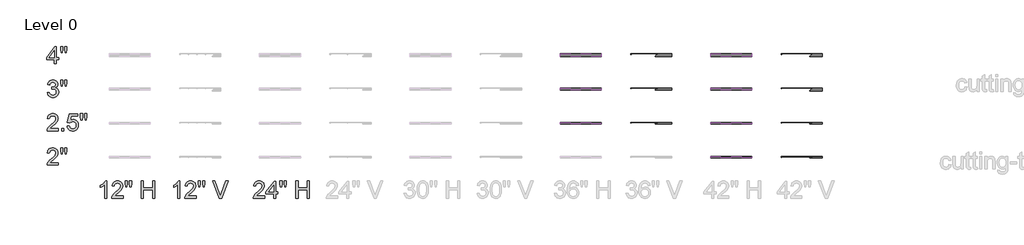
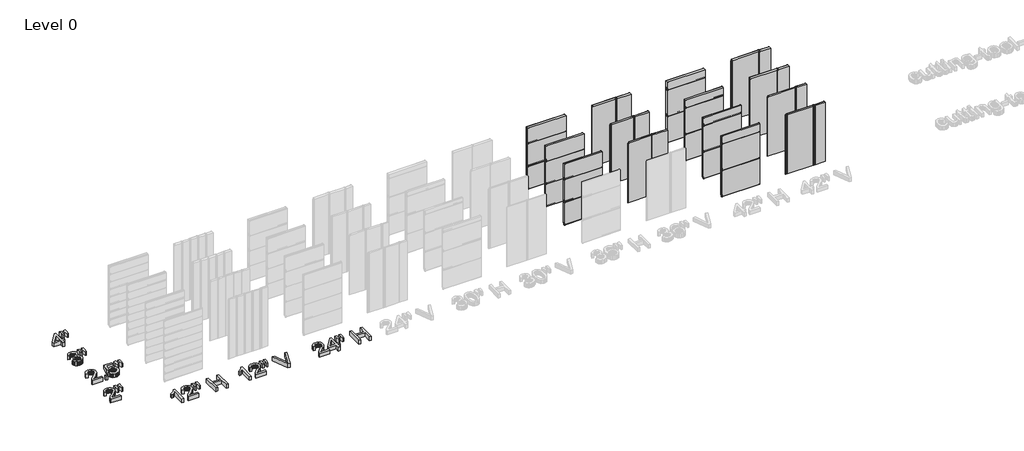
# One storey, part 2 of 5: 35 plates, 7 proxies.
"""IFC4 building model written with IfcOpenShell, lengths in millimetres."""

from ifc_helpers import new_model, si_unit, origin, origin_with_axes, place, context, project, spatial, polyline, outline, extrude, transform, mapped, element, save
from components import plate_dd8bc8b6, plate_0339fd76, plate_47ceeb69, plate_a6819ea9, plate_1add2ea0, plate_ec5e73b8, plate_5019aeee, plate_c719a7a9, plate_90d1a63a, plate_0f1cd221, plate_6702c4e9, plate_3bbae645, plate_aefddf00, plate_1998553f, plate_c49927b6, plate_7b0d1b0b, plate_6e94575f, plate_90314a49, plate_fcef75d7, plate_4bd44487, plate_3af4c5b5, plate_7f3386e1, plate_28f486fa, plate_696052eb

model = new_model("IFC4")

# Units and contexts
model_context = context("Model", 3, world=origin())
ifc_project = project(units=[si_unit("LENGTHUNIT", "METRE", prefix="MILLI")], contexts=[model_context])

# Site, building, storey
site = spatial("IfcSite", under=ifc_project)
building = spatial("IfcBuilding", under=site)
storey = spatial("IfcBuildingStorey", under=building, Name="Level 0", Elevation=0.0)

# Proxies
placement = place(None, origin())
element("IfcBuildingElementProxy", 1, Name="24\" Arial", ObjectType="24\" Arial", at=placement, inside=storey, context=model_context, shape_type="SweptSolid", body=[
    extrude(outline(polyline([(-32312.5108068, 10658.7692936), (-32312.5108068, 10582.6275201), (-32712.2551178, 10582.6275201), (-32710.5820807, 10609.433291), (-32704.0758257, 10635.1237038), (-32685.3006325, 10676.1502893), (-32657.8256469, 10715.949981), (-32618.0817231, 10757.6086027), (-32562.4997156, 10804.2119782), (-32480.3350088, 10877.1935707), (-32431.0361847, 10931.0653626), (-32416.657361, 10953.075094), (-32406.3867727, 10974.7873966), (-32400.2244197, 10996.2022704), (-32398.170302, 11017.3197154), (-32400.1082366, 11037.18703), (-32405.9220402, 11055.4463701), (-32415.6117129, 11072.0977357), (-32429.1772547, 11087.1411269), (-32445.8657989, 11099.6006053), (-32464.9244789, 11108.5002328), (-32486.3532947, 11113.8400093), (-32510.1522463, 11115.6199347), (-32535.2245649, 11113.8818352), (-32557.6479082, 11108.6675365), (-32577.4222763, 11099.9770386), (-32594.5476691, 11087.8103417), (-32608.401345, 11072.5764102), (-32618.3605626, 11054.6842088), (-32624.4253218, 11034.1337374), (-32626.5956226, 11010.9249962), (-32702.7373961, 11020.4427178), (-32696.1893151, 11059.7497931), (-32684.278221, 11094.0935251), (-32667.0041138, 11123.4739141), (-32644.3669935, 11147.8909598), (-32616.8873605, 11167.0844123), (-32585.0857153, 11180.7940212), (-32548.9620577, 11189.0197865), (-32508.5163878, 11191.7617083), (-32467.7082266, 11188.713063), (-32431.3893814, 11179.5671273), (-32399.5598522, 11164.3239012), (-32372.219639, 11142.9833846), (-32350.2610281, 11117.1256681), (-32334.5763061, 11088.3308421), (-32325.1654729, 11056.5989067), (-32322.0285285, 11021.9298619), (-32325.4117811, 10985.5134228), (-32335.561539, 10949.72902), (-32353.5745709, 10913.3311702), (-32380.5476454, 10875.0743905), (-32423.5446967, 10829.4004799), (-32489.6296589, 10770.7512379), (-32577.2224413, 10697.5093952), (-32611.575468, 10658.7692936), (-32312.5108068, 10658.7692936)])), origin_with_axes(), (0.0, 0.0, 1.0), 152.4),
    extrude(outline(polyline([(-32217.7797331, 10972.8541094), (-32236.3690333, 11090.4872009), (-32236.3690333, 11191.7617083), (-32160.2272598, 11191.7617083), (-32160.2272598, 11090.4872009), (-32176.8832727, 10972.8541094), (-32217.7797331, 10972.8541094)])), origin_with_axes(), (0.0, 0.0, 1.0), 152.4),
    extrude(outline(polyline([(-32065.9423293, 10972.8541094), (-32084.0854862, 11090.4872009), (-32084.0854862, 11191.7617083), (-32007.9437127, 11191.7617083), (-32007.9437127, 11090.4872009), (-32025.7894409, 10972.8541094), (-32065.9423293, 10972.8541094)])), origin_with_axes(), (0.0, 0.0, 1.0), 152.4),
])
element("IfcBuildingElementProxy", 2, Name="24\" Arial", ObjectType="24\" Arial", at=placement, inside=storey, context=model_context, shape_type="SweptSolid", body=[
    extrude(outline(polyline([(-32312.5108068, 11877.9692936), (-32312.5108068, 11801.8275201), (-32712.2551178, 11801.8275201), (-32710.5820807, 11828.633291), (-32704.0758257, 11854.3237038), (-32685.3006325, 11895.3502893), (-32657.8256469, 11935.149981), (-32618.0817231, 11976.8086027), (-32562.4997156, 12023.4119782), (-32480.3350088, 12096.3935707), (-32431.0361847, 12150.2653626), (-32416.657361, 12172.275094), (-32406.3867727, 12193.9873966), (-32400.2244197, 12215.4022704), (-32398.170302, 12236.5197154), (-32400.1082366, 12256.38703), (-32405.9220402, 12274.6463701), (-32415.6117129, 12291.2977357), (-32429.1772547, 12306.3411269), (-32445.8657989, 12318.8006053), (-32464.9244789, 12327.7002328), (-32486.3532947, 12333.0400093), (-32510.1522463, 12334.8199347), (-32535.2245649, 12333.0818352), (-32557.6479082, 12327.8675365), (-32577.4222763, 12319.1770386), (-32594.5476691, 12307.0103417), (-32608.401345, 12291.7764102), (-32618.3605626, 12273.8842088), (-32624.4253218, 12253.3337374), (-32626.5956226, 12230.1249962), (-32702.7373961, 12239.6427178), (-32696.1893151, 12278.9497931), (-32684.278221, 12313.2935251), (-32667.0041138, 12342.6739141), (-32644.3669935, 12367.0909598), (-32616.8873605, 12386.2844123), (-32585.0857153, 12399.9940212), (-32548.9620577, 12408.2197865), (-32508.5163878, 12410.9617083), (-32467.7082266, 12407.913063), (-32431.3893814, 12398.7671273), (-32399.5598522, 12383.5239012), (-32372.219639, 12362.1833846), (-32350.2610281, 12336.3256681), (-32334.5763061, 12307.5308421), (-32325.1654729, 12275.7989067), (-32322.0285285, 12241.1298619), (-32325.4117811, 12204.7134228), (-32335.561539, 12168.92902), (-32353.5745709, 12132.5311702), (-32380.5476454, 12094.2743905), (-32423.5446967, 12048.6004799), (-32489.6296589, 11989.9512379), (-32577.2224413, 11916.7093952), (-32611.575468, 11877.9692936), (-32312.5108068, 11877.9692936)])), origin_with_axes(), (0.0, 0.0, 1.0), 152.4),
    extrude(outline(polyline([(-32198.2981465, 11801.8275201), (-32198.2981465, 11877.9692936), (-32122.156373, 11877.9692936), (-32122.156373, 11801.8275201), (-32198.2981465, 11801.8275201)])), origin_with_axes(), (0.0, 0.0, 1.0), 152.4),
    extrude(outline(polyline([(-31998.425991, 11963.6287888), (-31922.2842175, 11973.1465105), (-31916.5958917, 11948.6690495), (-31908.3050638, 11927.4354214), (-31897.4117339, 11909.4456262), (-31883.915902, 11894.6996638), (-31867.845452, 11883.2161236), (-31849.2282678, 11875.0135949), (-31828.0643496, 11870.0920777), (-31804.3536972, 11868.4515719), (-31775.3543889, 11870.7334085), (-31749.7755119, 11877.5789183), (-31727.6170661, 11888.9881013), (-31708.8790515, 11904.9609575), (-31693.9797274, 11924.7074416), (-31683.3373531, 11947.4375084), (-31676.9519285, 11973.1511579), (-31674.8234536, 12001.84839), (-31676.817156, 12028.970179), (-31682.7982634, 12053.0805013), (-31692.7667756, 12074.179357), (-31706.7226927, 12092.2667461), (-31724.7124879, 12106.7756948), (-31746.7826346, 12117.1392297), (-31772.9331326, 12123.3573506), (-31803.163982, 12125.4300576), (-31840.1009215, 12122.1211621), (-31870.0111054, 12112.1944758), (-31893.8983562, 12096.9884283), (-31912.7664958, 12077.8414491), (-31988.9082694, 12087.3591708), (-31922.2842175, 12401.4439866), (-31627.2348451, 12401.4439866), (-31627.2348451, 12325.3022131), (-31860.7164553, 12325.3022131), (-31893.2849093, 12157.5523683), (-31866.4140758, 12176.8108833), (-31838.8926169, 12190.5669654), (-31810.7205325, 12198.8206147), (-31781.8978226, 12201.5718311), (-31744.8168161, 12198.1606945), (-31710.7565708, 12187.9272848), (-31679.7170869, 12170.8716018), (-31651.6983642, 12146.9936458), (-31628.5035649, 12117.7526766), (-31611.9358511, 12084.6079544), (-31601.9952228, 12047.5594791), (-31598.6816801, 12006.6072509), (-31601.6652628, 11967.1607559), (-31610.6160108, 11930.4654773), (-31625.5339242, 11896.5214152), (-31646.4190029, 11865.3285695), (-31678.0579918, 11833.3828572), (-31714.976342, 11810.5644912), (-31757.1740534, 11796.8734716), (-31804.651126, 11792.3097984), (-31843.9442593, 11795.2422605), (-31879.4358806, 11804.0396468), (-31911.1259901, 11818.7019574), (-31939.0145877, 11839.2291921), (-31962.2186816, 11864.5989395), (-31979.8552802, 11893.7887881), (-31991.9243833, 11926.7987379), (-31998.425991, 11963.6287888)])), origin_with_axes(), (0.0, 0.0, 1.0), 152.4),
    extrude(outline(polyline([(-31513.4683281, 12192.0541094), (-31532.0576283, 12309.6872009), (-31532.0576283, 12410.9617083), (-31455.9158547, 12410.9617083), (-31455.9158547, 12309.6872009), (-31472.5718677, 12192.0541094), (-31513.4683281, 12192.0541094)])), origin_with_axes(), (0.0, 0.0, 1.0), 152.4),
    extrude(outline(polyline([(-31361.6309242, 12192.0541094), (-31379.7740812, 12309.6872009), (-31379.7740812, 12410.9617083), (-31303.6323077, 12410.9617083), (-31303.6323077, 12309.6872009), (-31321.4780359, 12192.0541094), (-31361.6309242, 12192.0541094)])), origin_with_axes(), (0.0, 0.0, 1.0), 152.4),
])
element("IfcBuildingElementProxy", 3, Name="24\" Arial", ObjectType="24\" Arial", at=placement, inside=storey, context=model_context, shape_type="SweptSolid", body=[
    extrude(outline(polyline([(-32702.7373961, 13157.4287888), (-32626.5956226, 13166.9465105), (-32609.5492343, 13119.0976519), (-32598.0563995, 13101.0009682), (-32584.5838042, 13086.7894482), (-32568.8247249, 13076.0541273), (-32550.4724383, 13068.386041), (-32529.5269444, 13063.7851892), (-32505.988243, 13062.2515719), (-32478.4017216, 13064.3614575), (-32453.7894881, 13070.6911142), (-32432.1515427, 13081.2405421), (-32413.4878854, 13096.0097411), (-32398.4584362, 13113.8926478), (-32387.7231153, 13133.783199), (-32381.2819228, 13155.6813946), (-32379.1348586, 13179.5872347), (-32381.2633335, 13202.35448), (-32387.6487581, 13223.0676078), (-32398.2911325, 13241.7266178), (-32413.1904565, 13258.3315102), (-32431.3707921, 13271.9621145), (-32451.8562009, 13281.6982605), (-32474.6466829, 13287.5399481), (-32499.7422382, 13289.4871773), (-32523.7967926, 13287.4051757), (-32553.1307083, 13281.1591708), (-32544.6539874, 13357.3009443), (-32532.4594065, 13356.4086579), (-32486.8412638, 13361.8739122), (-32446.0563393, 13378.2696749), (-32429.2702012, 13390.6687381), (-32417.2801026, 13406.0049108), (-32410.0860434, 13424.2781929), (-32407.6880237, 13445.4885844), (-32409.4261233, 13462.7069236), (-32414.640422, 13478.3730564), (-32423.3309198, 13492.4869825), (-32435.4976168, 13505.0487021), (-32450.4062355, 13515.3611164), (-32467.3224987, 13522.7271266), (-32486.2464062, 13527.1467327), (-32507.1779582, 13528.6199347), (-32528.0537423, 13527.1327907), (-32547.107775, 13522.6713587), (-32564.3400563, 13515.2356386), (-32579.7505861, 13504.8256305), (-32592.9582839, 13491.4413344), (-32603.5820689, 13475.0827502), (-32611.6219413, 13455.7498781), (-32617.0779009, 13433.4427178), (-32693.2196744, 13442.9604395), (-32684.1945692, 13479.311816), (-32670.8009784, 13511.3318856), (-32653.0389021, 13539.0206482), (-32630.9083402, 13562.3781039), (-32605.1063916, 13580.9209308), (-32576.3301549, 13594.1658072), (-32544.5796302, 13602.112733), (-32509.8548175, 13604.7617083), (-32461.9873695, 13599.5381149), (-32418.0236746, 13583.8673349), (-32380.95661, 13559.1435656), (-32353.7790532, 13526.7610047), (-32337.1044509, 13489.4522793), (-32331.5462502, 13449.9500164), (-32336.8256114, 13413.1432021), (-32352.6636952, 13379.7568189), (-32378.8374298, 13351.3151897), (-32415.1237438, 13329.3426369), (-32389.749349, 13321.4050057), (-32367.4607781, 13310.0841219), (-32348.258031, 13295.3799854), (-32332.1411078, 13277.2925964), (-32319.3888479, 13256.2680979), (-32310.2800908, 13232.7526332), (-32304.8148365, 13206.7462022), (-32302.9930851, 13178.248805), (-32306.6365879, 13139.6202393), (-32317.5670964, 13104.0403187), (-32335.7846106, 13071.5090434), (-32361.2891305, 13042.0264134), (-32392.3611457, 13017.5628943), (-32427.2811461, 13000.0889522), (-32466.0491316, 12989.6045869), (-32508.6651022, 12986.1097984), (-32547.1821322, 12989.0933811), (-32582.2787309, 12998.0441291), (-32613.9548984, 13012.9620425), (-32642.2106347, 13033.8471213), (-32665.9026978, 13059.4724716), (-32683.8878457, 13088.6111996), (-32696.1660785, 13121.2633054), (-32702.7373961, 13157.4287888)])), origin_with_axes(), (0.0, 0.0, 1.0), 152.4),
    extrude(outline(polyline([(-32217.7797331, 13385.8541094), (-32236.3690333, 13503.4872009), (-32236.3690333, 13604.7617083), (-32160.2272598, 13604.7617083), (-32160.2272598, 13503.4872009), (-32176.8832727, 13385.8541094), (-32217.7797331, 13385.8541094)])), origin_with_axes(), (0.0, 0.0, 1.0), 152.4),
    extrude(outline(polyline([(-32065.9423293, 13385.8541094), (-32084.0854862, 13503.4872009), (-32084.0854862, 13604.7617083), (-32007.9437127, 13604.7617083), (-32007.9437127, 13503.4872009), (-32025.7894409, 13385.8541094), (-32065.9423293, 13385.8541094)])), origin_with_axes(), (0.0, 0.0, 1.0), 152.4),
])
element("IfcBuildingElementProxy", 4, Name="24\" Arial", ObjectType="24\" Arial", at=placement, inside=storey, context=model_context, shape_type="SweptSolid", body=[
    extrude(outline(polyline([(-32455.2766321, 14189.4275201), (-32455.2766321, 14332.1933455), (-32731.2905611, 14332.1933455), (-32731.2905611, 14408.335119), (-32436.2411888, 14789.0439866), (-32379.1348586, 14789.0439866), (-32379.1348586, 14408.335119), (-32302.9930851, 14408.335119), (-32302.9930851, 14332.1933455), (-32379.1348586, 14332.1933455), (-32379.1348586, 14189.4275201), (-32455.2766321, 14189.4275201)]), holes=[polyline([(-32455.2766321, 14408.335119), (-32455.2766321, 14643.601302), (-32637.6004883, 14408.335119), (-32455.2766321, 14408.335119)])]), origin_with_axes(), (0.0, 0.0, 1.0), 152.4),
    extrude(outline(polyline([(-32217.7797331, 14579.6541094), (-32236.3690333, 14697.2872009), (-32236.3690333, 14798.5617083), (-32160.2272598, 14798.5617083), (-32160.2272598, 14697.2872009), (-32176.8832727, 14579.6541094), (-32217.7797331, 14579.6541094)])), origin_with_axes(), (0.0, 0.0, 1.0), 152.4),
    extrude(outline(polyline([(-32065.9423293, 14579.6541094), (-32084.0854862, 14697.2872009), (-32084.0854862, 14798.5617083), (-32007.9437127, 14798.5617083), (-32007.9437127, 14697.2872009), (-32025.7894409, 14579.6541094), (-32065.9423293, 14579.6541094)])), origin_with_axes(), (0.0, 0.0, 1.0), 152.4),
])
element("IfcBuildingElementProxy", 5, Name="24\" Arial", ObjectType="24\" Arial", at=placement, inside=storey, context=model_context, shape_type="SweptSolid", body=[
    extrude(outline(polyline([(-30589.8489204, 9409.440542), (-30665.9906939, 9409.440542), (-30665.9906939, 9884.1369113), (-30697.7783972, 9858.4279091), (-30738.1171786, 9832.7560856), (-30780.4636044, 9810.3188003), (-30818.2742409, 9794.3134128), (-30818.2742409, 9866.2911831), (-30758.4724623, 9898.8224584), (-30706.6640827, 9937.5253814), (-30665.8233902, 9978.682092), (-30638.9246728, 10018.5747302), (-30589.8489204, 10018.5747302), (-30589.8489204, 9409.440542)])), origin_with_axes(), (0.0, 0.0, 1.0), 152.4),
    extrude(outline(polyline([(-30018.785619, 9485.5823155), (-30018.785619, 9409.440542), (-30418.52993, 9409.440542), (-30416.8568929, 9436.2463129), (-30410.3506379, 9461.9367257), (-30391.5754447, 9502.9633112), (-30364.100459, 9542.7630029), (-30324.3565353, 9584.4216246), (-30268.7745278, 9631.0250001), (-30186.609821, 9704.0065926), (-30137.3109969, 9757.8783845), (-30122.9321732, 9779.8881159), (-30112.6615849, 9801.6004185), (-30106.4992319, 9823.0152923), (-30104.4451142, 9844.1327373), (-30106.3830487, 9864.0000519), (-30112.1968524, 9882.259392), (-30121.8865251, 9898.9107576), (-30135.4520669, 9913.9541488), (-30152.1406111, 9926.4136272), (-30171.1992911, 9935.3132547), (-30192.6281069, 9940.6530311), (-30216.4270585, 9942.4329566), (-30241.4993771, 9940.6948571), (-30263.9227204, 9935.4805584), (-30283.6970885, 9926.7900605), (-30300.8224813, 9914.6233636), (-30314.6761572, 9899.3894321), (-30324.6353748, 9881.4972307), (-30330.700134, 9860.9467593), (-30332.8704348, 9837.7380181), (-30409.0122083, 9847.2557397), (-30402.4641273, 9886.562815), (-30390.5530332, 9920.906547), (-30373.278926, 9950.286936), (-30350.6418057, 9974.7039817), (-30323.1621727, 9993.8974342), (-30291.3605275, 10007.6070431), (-30255.2368699, 10015.8328084), (-30214.7912, 10018.5747302), (-30173.9830388, 10015.5260849), (-30137.6641936, 10006.3801492), (-30105.8346644, 9991.1369231), (-30078.4944512, 9969.7964065), (-30056.5358403, 9943.93869), (-30040.8511183, 9915.143864), (-30031.4402851, 9883.4119286), (-30028.3033407, 9848.7428838), (-30031.6865933, 9812.3264447), (-30041.8363512, 9776.5420419), (-30059.8493831, 9740.1441921), (-30086.8224576, 9701.8874124), (-30129.8195089, 9656.2135018), (-30195.9044711, 9597.5642598), (-30283.4972535, 9524.3224171), (-30317.8502802, 9485.5823155), (-30018.785619, 9485.5823155)])), origin_with_axes(), (0.0, 0.0, 1.0), 152.4),
    extrude(outline(polyline([(-29924.0545453, 9799.6671313), (-29942.6438455, 9917.3002228), (-29942.6438455, 10018.5747302), (-29866.502072, 10018.5747302), (-29866.502072, 9917.3002228), (-29883.1580849, 9799.6671313), (-29924.0545453, 9799.6671313)])), origin_with_axes(), (0.0, 0.0, 1.0), 152.4),
    extrude(outline(polyline([(-29772.2171415, 9799.6671313), (-29790.3602984, 9917.3002228), (-29790.3602984, 10018.5747302), (-29714.2185249, 10018.5747302), (-29714.2185249, 9917.3002228), (-29732.0642531, 9799.6671313), (-29772.2171415, 9799.6671313)])), origin_with_axes(), (0.0, 0.0, 1.0), 152.4),
    extrude(outline(polyline([(-29371.5805441, 9409.440542), (-29371.5805441, 10018.5747302), (-29295.4387706, 10018.5747302), (-29295.4387706, 9771.1139662), (-28971.8362331, 9771.1139662), (-28971.8362331, 10018.5747302), (-28895.6944596, 10018.5747302), (-28895.6944596, 9409.440542), (-28971.8362331, 9409.440542), (-28971.8362331, 9694.9721927), (-29295.4387706, 9694.9721927), (-29295.4387706, 9409.440542), (-29371.5805441, 9409.440542)])), origin_with_axes(), (0.0, 0.0, 1.0), 152.4),
])
element("IfcBuildingElementProxy", 6, Name="24\" Arial", ObjectType="24\" Arial", at=placement, inside=storey, context=model_context, shape_type="SweptSolid", body=[
    extrude(outline(polyline([(-27999.0489204, 9409.440542), (-28075.1906939, 9409.440542), (-28075.1906939, 9884.1369113), (-28106.9783972, 9858.4279091), (-28147.3171786, 9832.7560856), (-28189.6636044, 9810.3188003), (-28227.4742409, 9794.3134128), (-28227.4742409, 9866.2911831), (-28167.6724623, 9898.8224584), (-28115.8640827, 9937.5253814), (-28075.0233902, 9978.682092), (-28048.1246728, 10018.5747302), (-27999.0489204, 10018.5747302), (-27999.0489204, 9409.440542)])), origin_with_axes(), (0.0, 0.0, 1.0), 152.4),
    extrude(outline(polyline([(-27427.985619, 9485.5823155), (-27427.985619, 9409.440542), (-27827.72993, 9409.440542), (-27826.0568929, 9436.2463129), (-27819.5506379, 9461.9367257), (-27800.7754447, 9502.9633112), (-27773.300459, 9542.7630029), (-27733.5565353, 9584.4216246), (-27677.9745278, 9631.0250001), (-27595.809821, 9704.0065926), (-27546.5109969, 9757.8783845), (-27532.1321732, 9779.8881159), (-27521.8615849, 9801.6004185), (-27515.6992319, 9823.0152923), (-27513.6451142, 9844.1327373), (-27515.5830487, 9864.0000519), (-27521.3968524, 9882.259392), (-27531.0865251, 9898.9107576), (-27544.6520669, 9913.9541488), (-27561.3406111, 9926.4136272), (-27580.3992911, 9935.3132547), (-27601.8281069, 9940.6530311), (-27625.6270585, 9942.4329566), (-27650.6993771, 9940.6948571), (-27673.1227204, 9935.4805584), (-27692.8970885, 9926.7900605), (-27710.0224813, 9914.6233636), (-27723.8761572, 9899.3894321), (-27733.8353748, 9881.4972307), (-27739.900134, 9860.9467593), (-27742.0704348, 9837.7380181), (-27818.2122083, 9847.2557397), (-27811.6641273, 9886.562815), (-27799.7530332, 9920.906547), (-27782.478926, 9950.286936), (-27759.8418057, 9974.7039817), (-27732.3621727, 9993.8974342), (-27700.5605275, 10007.6070431), (-27664.4368699, 10015.8328084), (-27623.9912, 10018.5747302), (-27583.1830388, 10015.5260849), (-27546.8641936, 10006.3801492), (-27515.0346644, 9991.1369231), (-27487.6944512, 9969.7964065), (-27465.7358403, 9943.93869), (-27450.0511183, 9915.143864), (-27440.6402851, 9883.4119286), (-27437.5033407, 9848.7428838), (-27440.8865933, 9812.3264447), (-27451.0363512, 9776.5420419), (-27469.0493831, 9740.1441921), (-27496.0224576, 9701.8874124), (-27539.0195089, 9656.2135018), (-27605.1044711, 9597.5642598), (-27692.6972535, 9524.3224171), (-27727.0502802, 9485.5823155), (-27427.985619, 9485.5823155)])), origin_with_axes(), (0.0, 0.0, 1.0), 152.4),
    extrude(outline(polyline([(-27333.2545453, 9799.6671313), (-27351.8438455, 9917.3002228), (-27351.8438455, 10018.5747302), (-27275.702072, 10018.5747302), (-27275.702072, 9917.3002228), (-27292.3580849, 9799.6671313), (-27333.2545453, 9799.6671313)])), origin_with_axes(), (0.0, 0.0, 1.0), 152.4),
    extrude(outline(polyline([(-27181.4171415, 9799.6671313), (-27199.5602984, 9917.3002228), (-27199.5602984, 10018.5747302), (-27123.4185249, 10018.5747302), (-27123.4185249, 9917.3002228), (-27141.2642531, 9799.6671313), (-27181.4171415, 9799.6671313)])), origin_with_axes(), (0.0, 0.0, 1.0), 152.4),
    extrude(outline(polyline([(-26600.8361184, 9409.440542), (-26843.2405927, 10018.5747302), (-26761.7451007, 10018.5747302), (-26599.4976888, 9579.7185316), (-26566.6318061, 9480.8234547), (-26534.2120666, 9579.7185316), (-26371.5185114, 10018.5747302), (-26290.0230195, 10018.5747302), (-26522.1662001, 9409.440542), (-26600.8361184, 9409.440542)])), origin_with_axes(), (0.0, 0.0, 1.0), 152.4),
])
element("IfcBuildingElementProxy", 7, Name="24\" Arial", ObjectType="24\" Arial", at=placement, inside=storey, context=model_context, shape_type="SweptSolid", body=[
    extrude(outline(polyline([(-24998.7539818, 9485.5823155), (-24998.7539818, 9409.440542), (-25398.4982928, 9409.440542), (-25396.8252557, 9436.2463129), (-25390.3190007, 9461.9367257), (-25371.5438075, 9502.9633112), (-25344.0688218, 9542.7630029), (-25304.3248981, 9584.4216246), (-25248.7428905, 9631.0250001), (-25166.5781838, 9704.0065926), (-25117.2793597, 9757.8783845), (-25102.900536, 9779.8881159), (-25092.6299477, 9801.6004185), (-25086.4675947, 9823.0152923), (-25084.413477, 9844.1327373), (-25086.3514115, 9864.0000519), (-25092.1652152, 9882.259392), (-25101.8548879, 9898.9107576), (-25115.4204297, 9913.9541488), (-25132.1089739, 9926.4136272), (-25151.1676539, 9935.3132547), (-25172.5964697, 9940.6530311), (-25196.3954213, 9942.4329566), (-25221.4677399, 9940.6948571), (-25243.8910832, 9935.4805584), (-25263.6654513, 9926.7900605), (-25280.790844, 9914.6233636), (-25294.64452, 9899.3894321), (-25304.6037376, 9881.4972307), (-25310.6684968, 9860.9467593), (-25312.8387975, 9837.7380181), (-25388.9805711, 9847.2557397), (-25382.4324901, 9886.562815), (-25370.521396, 9920.906547), (-25353.2472888, 9950.286936), (-25330.6101685, 9974.7039817), (-25303.1305355, 9993.8974342), (-25271.3288903, 10007.6070431), (-25235.2052327, 10015.8328084), (-25194.7595628, 10018.5747302), (-25153.9514016, 10015.5260849), (-25117.6325564, 10006.3801492), (-25085.8030272, 9991.1369231), (-25058.462814, 9969.7964065), (-25036.5042031, 9943.93869), (-25020.8194811, 9915.143864), (-25011.4086479, 9883.4119286), (-25008.2717035, 9848.7428838), (-25011.6549561, 9812.3264447), (-25021.804714, 9776.5420419), (-25039.8177459, 9740.1441921), (-25066.7908204, 9701.8874124), (-25109.7878717, 9656.2135018), (-25175.8728339, 9597.5642598), (-25263.4656163, 9524.3224171), (-25297.818643, 9485.5823155), (-24998.7539818, 9485.5823155)])), origin_with_axes(), (0.0, 0.0, 1.0), 152.4),
    extrude(outline(polyline([(-24675.1514443, 9409.440542), (-24675.1514443, 9552.2063674), (-24951.1653733, 9552.2063674), (-24951.1653733, 9628.3481409), (-24656.116001, 10009.0570085), (-24599.0096708, 10009.0570085), (-24599.0096708, 9628.3481409), (-24522.8678973, 9628.3481409), (-24522.8678973, 9552.2063674), (-24599.0096708, 9552.2063674), (-24599.0096708, 9409.440542), (-24675.1514443, 9409.440542)]), holes=[polyline([(-24675.1514443, 9628.3481409), (-24675.1514443, 9863.6143239), (-24857.4753005, 9628.3481409), (-24675.1514443, 9628.3481409)])]), origin_with_axes(), (0.0, 0.0, 1.0), 152.4),
    extrude(outline(polyline([(-24437.6545453, 9799.6671313), (-24456.2438455, 9917.3002228), (-24456.2438455, 10018.5747302), (-24380.102072, 10018.5747302), (-24380.102072, 9917.3002228), (-24396.7580849, 9799.6671313), (-24437.6545453, 9799.6671313)])), origin_with_axes(), (0.0, 0.0, 1.0), 152.4),
    extrude(outline(polyline([(-24285.8171415, 9799.6671313), (-24303.9602984, 9917.3002228), (-24303.9602984, 10018.5747302), (-24227.8185249, 10018.5747302), (-24227.8185249, 9917.3002228), (-24245.6642531, 9799.6671313), (-24285.8171415, 9799.6671313)])), origin_with_axes(), (0.0, 0.0, 1.0), 152.4),
    extrude(outline(polyline([(-23885.1805441, 9409.440542), (-23885.1805441, 10018.5747302), (-23809.0387706, 10018.5747302), (-23809.0387706, 9771.1139662), (-23485.4362331, 9771.1139662), (-23485.4362331, 10018.5747302), (-23409.2944596, 10018.5747302), (-23409.2944596, 9409.440542), (-23485.4362331, 9409.440542), (-23485.4362331, 9694.9721927), (-23809.0387706, 9694.9721927), (-23809.0387706, 9409.440542), (-23885.1805441, 9409.440542)])), origin_with_axes(), (0.0, 0.0, 1.0), 152.4),
])

# Plates
plate_shape = plate_dd8bc8b6(model_context)
element("IfcPlate", 8, ObjectType="KIP-42-DWTR-R19-CP-Hz-F : Hz 2\"", at=placement, inside=storey, context=model_context, shape_type="MappedRepresentation", body=[
    mapped(plate_shape, transform((-8448.7250935, 10881.8207172, 0.0), x_axis=(1.0, 0.0, 0.0), y_axis=(0.0, 1.0, 0.0), z_axis=(0.0, 0.0, 1.0))),
])
element("IfcPlate", 9, ObjectType="KIP-42-DWTR-R19-CP-Hz-F : Hz 2\"", at=placement, inside=storey, context=model_context, shape_type="MappedRepresentation", body=[
    mapped(plate_shape, transform((-8448.7250935, 10881.8207172, 1066.8), x_axis=(1.0, 0.0, 0.0), y_axis=(0.0, 1.0, 0.0), z_axis=(0.0, 0.0, 1.0))),
])
plate_2_shape = plate_0339fd76(model_context)
element("IfcPlate", 10, ObjectType="KIP-42-DWTR-R19-CP-Hz-F : Hz 2\"", at=placement, inside=storey, context=model_context, shape_type="MappedRepresentation", body=[
    mapped(plate_2_shape, transform((-8448.7250935, 10881.8207172, 2133.6), x_axis=(1.0, 0.0, 0.0), y_axis=(0.0, 1.0, 0.0), z_axis=(0.0, 0.0, 1.0))),
])
element("IfcPlate", 11, ObjectType="KIP-42-DWTR-R19-CP-Hz-F : Hz 2.5\"", at=placement, inside=storey, context=model_context, shape_type="MappedRepresentation", body=[
    mapped(plate_shape, transform((-8448.7250935, 12101.0207172, 0.0), x_axis=(1.0, 0.0, 0.0), y_axis=(0.0, 1.0, 0.0), z_axis=(0.0, 0.0, 1.0))),
])
element("IfcPlate", 12, ObjectType="KIP-42-DWTR-R19-CP-Hz-F : Hz 2.5\"", at=placement, inside=storey, context=model_context, shape_type="MappedRepresentation", body=[
    mapped(plate_shape, transform((-8448.7250935, 12101.0207172, 1066.8), x_axis=(1.0, 0.0, 0.0), y_axis=(0.0, 1.0, 0.0), z_axis=(0.0, 0.0, 1.0))),
])
element("IfcPlate", 13, ObjectType="KIP-42-DWTR-R19-CP-Hz-F : Hz 2.5\"", at=placement, inside=storey, context=model_context, shape_type="MappedRepresentation", body=[
    mapped(plate_2_shape, transform((-8448.7250935, 12101.0207172, 2133.6), x_axis=(1.0, 0.0, 0.0), y_axis=(0.0, 1.0, 0.0), z_axis=(0.0, 0.0, 1.0))),
])
plate_3_shape = plate_47ceeb69(model_context)
element("IfcPlate", 14, ObjectType="KIP-36-DWTR-R19-CP-Hz-F : Hz 2.5\"", at=placement, inside=storey, context=model_context, shape_type="MappedRepresentation", body=[
    mapped(plate_3_shape, transform((-13782.7250935, 12101.0207172, 0.0), x_axis=(1.0, 0.0, 0.0), y_axis=(0.0, 1.0, 0.0), z_axis=(0.0, 0.0, 1.0))),
])
element("IfcPlate", 15, ObjectType="KIP-36-DWTR-R19-CP-Hz-F : Hz 2.5\"", at=placement, inside=storey, context=model_context, shape_type="MappedRepresentation", body=[
    mapped(plate_3_shape, transform((-13782.7250935, 12101.0207172, 915.0), x_axis=(1.0, 0.0, 0.0), y_axis=(0.0, 1.0, 0.0), z_axis=(0.0, 0.0, 1.0))),
])
plate_4_shape = plate_a6819ea9(model_context)
element("IfcPlate", 16, ObjectType="KIP-36-DWTR-R19-CP-Hz-F : Hz 2.5\"", at=placement, inside=storey, context=model_context, shape_type="MappedRepresentation", body=[
    mapped(plate_4_shape, transform((-13782.7250935, 12101.0207172, 1830.0), x_axis=(1.0, 0.0, 0.0), y_axis=(0.0, 1.0, 0.0), z_axis=(0.0, 0.0, 1.0))),
])
plate_5_shape = plate_1add2ea0(model_context)
element("IfcPlate", 17, ObjectType="KIP-42-DWTR-R19-CP-Hz-F : Hz 3\"", at=placement, inside=storey, context=model_context, shape_type="MappedRepresentation", body=[
    mapped(plate_5_shape, transform((-8448.7250935, 13320.2207172, 0.0), x_axis=(1.0, 0.0, 0.0), y_axis=(0.0, 1.0, 0.0), z_axis=(0.0, 0.0, 1.0))),
])
element("IfcPlate", 18, ObjectType="KIP-42-DWTR-R19-CP-Hz-F : Hz 3\"", at=placement, inside=storey, context=model_context, shape_type="MappedRepresentation", body=[
    mapped(plate_5_shape, transform((-8448.7250935, 13320.2207172, 1066.8), x_axis=(1.0, 0.0, 0.0), y_axis=(0.0, 1.0, 0.0), z_axis=(0.0, 0.0, 1.0))),
])
plate_6_shape = plate_ec5e73b8(model_context)
element("IfcPlate", 19, ObjectType="KIP-42-DWTR-R19-CP-Hz-F : Hz 3\"", at=placement, inside=storey, context=model_context, shape_type="MappedRepresentation", body=[
    mapped(plate_6_shape, transform((-8448.7250935, 13320.2207172, 2133.6), x_axis=(1.0, 0.0, 0.0), y_axis=(0.0, 1.0, 0.0), z_axis=(0.0, 0.0, 1.0))),
])
plate_7_shape = plate_5019aeee(model_context)
element("IfcPlate", 20, ObjectType="KIP-36-DWTR-R19-CP-Hz-F : Hz 3\"", at=placement, inside=storey, context=model_context, shape_type="MappedRepresentation", body=[
    mapped(plate_7_shape, transform((-13782.7250935, 13320.2207172, 0.0), x_axis=(1.0, 0.0, 0.0), y_axis=(0.0, 1.0, 0.0), z_axis=(0.0, 0.0, 1.0))),
])
element("IfcPlate", 21, ObjectType="KIP-36-DWTR-R19-CP-Hz-F : Hz 3\"", at=placement, inside=storey, context=model_context, shape_type="MappedRepresentation", body=[
    mapped(plate_7_shape, transform((-13782.7250935, 13320.2207172, 915.0), x_axis=(1.0, 0.0, 0.0), y_axis=(0.0, 1.0, 0.0), z_axis=(0.0, 0.0, 1.0))),
])
plate_8_shape = plate_c719a7a9(model_context)
element("IfcPlate", 22, ObjectType="KIP-36-DWTR-R19-CP-Hz-F : Hz 3\"", at=placement, inside=storey, context=model_context, shape_type="MappedRepresentation", body=[
    mapped(plate_8_shape, transform((-13782.7250935, 13320.2207172, 1830.0), x_axis=(1.0, 0.0, 0.0), y_axis=(0.0, 1.0, 0.0), z_axis=(0.0, 0.0, 1.0))),
])
plate_9_shape = plate_90d1a63a(model_context)
element("IfcPlate", 23, ObjectType="KIP-42-DWTR-R19-CP-Hz-F : Hz 4\"", at=placement, inside=storey, context=model_context, shape_type="MappedRepresentation", body=[
    mapped(plate_9_shape, transform((-8448.7250935, 14539.4207172, 0.0), x_axis=(1.0, 0.0, 0.0), y_axis=(0.0, 1.0, 0.0), z_axis=(0.0, 0.0, 1.0))),
])
element("IfcPlate", 24, ObjectType="KIP-42-DWTR-R19-CP-Hz-F : Hz 4\"", at=placement, inside=storey, context=model_context, shape_type="MappedRepresentation", body=[
    mapped(plate_9_shape, transform((-8448.7250935, 14539.4207172, 1066.8), x_axis=(1.0, 0.0, 0.0), y_axis=(0.0, 1.0, 0.0), z_axis=(0.0, 0.0, 1.0))),
])
plate_10_shape = plate_0f1cd221(model_context)
element("IfcPlate", 25, ObjectType="KIP-42-DWTR-R19-CP-Hz-F : Hz 4\"", at=placement, inside=storey, context=model_context, shape_type="MappedRepresentation", body=[
    mapped(plate_10_shape, transform((-8448.7250935, 14539.4207172, 2133.6), x_axis=(1.0, 0.0, 0.0), y_axis=(0.0, 1.0, 0.0), z_axis=(0.0, 0.0, 1.0))),
])
plate_11_shape = plate_6702c4e9(model_context)
element("IfcPlate", 26, ObjectType="KIP-36-DWTR-R19-CP-Hz-F : Hz 4\"", at=placement, inside=storey, context=model_context, shape_type="MappedRepresentation", body=[
    mapped(plate_11_shape, transform((-13782.7250935, 14539.4207172, 0.0), x_axis=(1.0, 0.0, 0.0), y_axis=(0.0, 1.0, 0.0), z_axis=(0.0, 0.0, 1.0))),
])
element("IfcPlate", 27, ObjectType="KIP-36-DWTR-R19-CP-Hz-F : Hz 4\"", at=placement, inside=storey, context=model_context, shape_type="MappedRepresentation", body=[
    mapped(plate_11_shape, transform((-13782.7250935, 14539.4207172, 914.4), x_axis=(1.0, 0.0, 0.0), y_axis=(0.0, 1.0, 0.0), z_axis=(0.0, 0.0, 1.0))),
])
plate_12_shape = plate_3bbae645(model_context)
element("IfcPlate", 28, ObjectType="KIP-36-DWTR-R19-CP-Hz-F : Hz 4\"", at=placement, inside=storey, context=model_context, shape_type="MappedRepresentation", body=[
    mapped(plate_12_shape, transform((-13782.7250935, 14539.4207172, 1828.8), x_axis=(1.0, 0.0, 0.0), y_axis=(0.0, 1.0, 0.0), z_axis=(0.0, 0.0, 1.0))),
])
plate_13_shape = plate_aefddf00(model_context)
element("IfcPlate", 29, ObjectType="KIP-42-DWTR-R19-CP-Vt-F : Vt 2\"", at=placement, inside=storey, context=model_context, shape_type="MappedRepresentation", body=[
    mapped(plate_13_shape, transform((-6145.5413834, 10881.8207172, 0.0), x_axis=(1.0, 0.0, 0.0), y_axis=(0.0, 1.0, 0.0), z_axis=(0.0, 0.0, 1.0))),
])
plate_14_shape = plate_1998553f(model_context)
element("IfcPlate", 30, ObjectType="KIP-42-DWTR-R19-CP-Vt-F : Vt 2\"", at=placement, inside=storey, context=model_context, shape_type="MappedRepresentation", body=[
    mapped(plate_14_shape, transform((-5415.5413834, 10881.8207172, 0.0), x_axis=(1.0, 0.0, 0.0), y_axis=(0.0, 1.0, 0.0), z_axis=(0.0, 0.0, 1.0))),
])
plate_15_shape = plate_c49927b6(model_context)
element("IfcPlate", 31, ObjectType="KIP-42-DWTR-R19-CP-Vt-F : Vt 2.5\"", at=placement, inside=storey, context=model_context, shape_type="MappedRepresentation", body=[
    mapped(plate_15_shape, transform((-6145.5413834, 12101.0207172, 0.0), x_axis=(1.0, 0.0, 0.0), y_axis=(0.0, 1.0, 0.0), z_axis=(0.0, 0.0, 1.0))),
])
plate_16_shape = plate_7b0d1b0b(model_context)
element("IfcPlate", 32, ObjectType="KIP-42-DWTR-R19-CP-Vt-F : Vt 2.5\"", at=placement, inside=storey, context=model_context, shape_type="MappedRepresentation", body=[
    mapped(plate_16_shape, transform((-5415.5413834, 12101.0207172, 0.0), x_axis=(1.0, 0.0, 0.0), y_axis=(0.0, 1.0, 0.0), z_axis=(0.0, 0.0, 1.0))),
])
plate_17_shape = plate_6e94575f(model_context)
element("IfcPlate", 33, ObjectType="KIP-36-DWTR-R19-CP-Vt-F : Vt 2.5\"", at=placement, inside=storey, context=model_context, shape_type="MappedRepresentation", body=[
    mapped(plate_17_shape, transform((-11555.4413834, 12101.0207172, 0.0), x_axis=(1.0, 0.0, 0.0), y_axis=(0.0, 1.0, 0.0), z_axis=(0.0, 0.0, 1.0))),
])
plate_18_shape = plate_90314a49(model_context)
element("IfcPlate", 34, ObjectType="KIP-36-DWTR-R19-CP-Vt-F : Vt 2.5\"", at=placement, inside=storey, context=model_context, shape_type="MappedRepresentation", body=[
    mapped(plate_18_shape, transform((-10825.4413834, 12101.0207172, 0.0), x_axis=(1.0, 0.0, 0.0), y_axis=(0.0, 1.0, 0.0), z_axis=(0.0, 0.0, 1.0))),
])
plate_19_shape = plate_fcef75d7(model_context)
element("IfcPlate", 35, ObjectType="KIP-42-DWTR-R19-CP-Vt-F : Vt 3\"", at=placement, inside=storey, context=model_context, shape_type="MappedRepresentation", body=[
    mapped(plate_19_shape, transform((-6145.5413834, 13320.2207172, 0.0), x_axis=(1.0, 0.0, 0.0), y_axis=(0.0, 1.0, 0.0), z_axis=(0.0, 0.0, 1.0))),
])
plate_20_shape = plate_4bd44487(model_context)
element("IfcPlate", 36, ObjectType="KIP-42-DWTR-R19-CP-Vt-F : Vt 3\"", at=placement, inside=storey, context=model_context, shape_type="MappedRepresentation", body=[
    mapped(plate_20_shape, transform((-5415.5413834, 13320.2207172, 0.0), x_axis=(1.0, 0.0, 0.0), y_axis=(0.0, 1.0, 0.0), z_axis=(0.0, 0.0, 1.0))),
])
plate_21_shape = plate_3af4c5b5(model_context)
element("IfcPlate", 37, ObjectType="KIP-36-DWTR-R19-CP-Vt-F : Vt 3\"", at=placement, inside=storey, context=model_context, shape_type="MappedRepresentation", body=[
    mapped(plate_21_shape, transform((-11555.4413834, 13320.2207172, 0.0), x_axis=(1.0, 0.0, 0.0), y_axis=(0.0, 1.0, 0.0), z_axis=(0.0, 0.0, 1.0))),
])
plate_22_shape = plate_7f3386e1(model_context)
element("IfcPlate", 38, ObjectType="KIP-36-DWTR-R19-CP-Vt-F : Vt 3\"", at=placement, inside=storey, context=model_context, shape_type="MappedRepresentation", body=[
    mapped(plate_22_shape, transform((-10825.4413834, 13320.2207172, 0.0), x_axis=(1.0, 0.0, 0.0), y_axis=(0.0, 1.0, 0.0), z_axis=(0.0, 0.0, 1.0))),
])
element("IfcPlate", 39, ObjectType="KIP-42-DWTR-R19-CP-Vt-F : Vt 4\"", at=placement, inside=storey, context=model_context, shape_type="MappedRepresentation", body=[
    mapped(plate_19_shape, transform((-6145.5413834, 14539.4207172, 0.0), x_axis=(1.0, 0.0, 0.0), y_axis=(0.0, 1.0, 0.0), z_axis=(0.0, 0.0, 1.0))),
])
element("IfcPlate", 40, ObjectType="KIP-42-DWTR-R19-CP-Vt-F : Vt 4\"", at=placement, inside=storey, context=model_context, shape_type="MappedRepresentation", body=[
    mapped(plate_20_shape, transform((-5415.5413834, 14539.4207172, 0.0), x_axis=(1.0, 0.0, 0.0), y_axis=(0.0, 1.0, 0.0), z_axis=(0.0, 0.0, 1.0))),
])
plate_23_shape = plate_28f486fa(model_context)
element("IfcPlate", 41, ObjectType="KIP-36-DWTR-R19-CP-Vt-F : Vt 4\"", at=placement, inside=storey, context=model_context, shape_type="MappedRepresentation", body=[
    mapped(plate_23_shape, transform((-11555.4413834, 14539.4207172, 0.0), x_axis=(1.0, 0.0, 0.0), y_axis=(0.0, 1.0, 0.0), z_axis=(0.0, 0.0, 1.0))),
])
plate_24_shape = plate_696052eb(model_context)
element("IfcPlate", 42, ObjectType="KIP-36-DWTR-R19-CP-Vt-F : Vt 4\"", at=placement, inside=storey, context=model_context, shape_type="MappedRepresentation", body=[
    mapped(plate_24_shape, transform((-10825.4413834, 14539.4207172, 0.0), x_axis=(1.0, 0.0, 0.0), y_axis=(0.0, 1.0, 0.0), z_axis=(0.0, 0.0, 1.0))),
])

save(model, "model.ifc")
